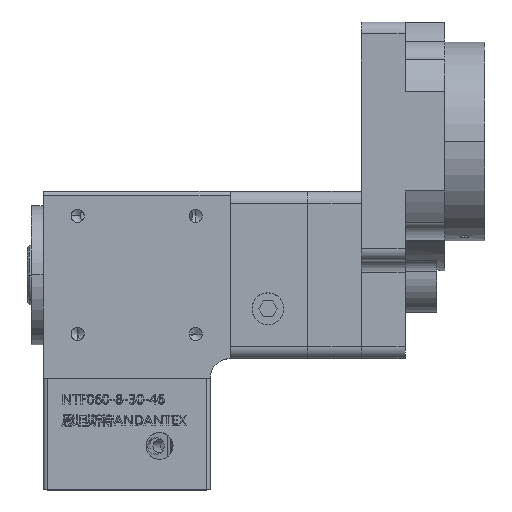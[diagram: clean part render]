
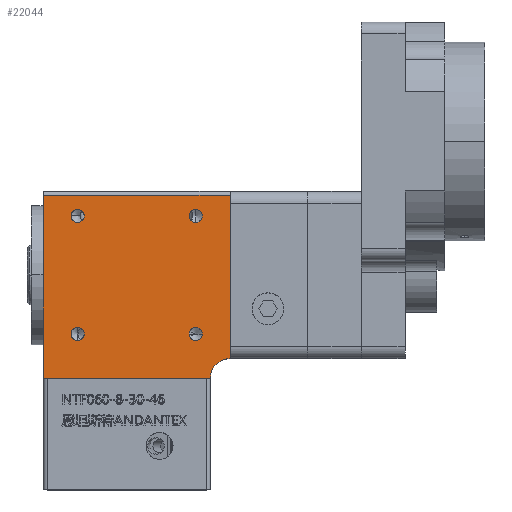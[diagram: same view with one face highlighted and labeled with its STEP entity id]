
A CAD part, top view. The second image highlights one B-rep face of the part: STEP entity #22044.
In plain terms, the highlighted planar face has unit normal (0, 0, 1).
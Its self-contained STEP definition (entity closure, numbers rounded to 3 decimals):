
#474 = ORIENTED_EDGE ( 'NONE', *, *, #62102, .F. ) ;
#797 = CIRCLE ( 'NONE', #16467, 1.65 ) ;
#1523 = DIRECTION ( 'NONE',  ( 0., 0., 1. ) ) ;
#1993 = VERTEX_POINT ( 'NONE', #59797 ) ;
#2158 = DIRECTION ( 'NONE',  ( 1., 0., 0. ) ) ;
#2241 = DIRECTION ( 'NONE',  ( 0., 0., -1. ) ) ;
#2899 = CARTESIAN_POINT ( 'NONE',  ( 53., -23.5, 21. ) ) ;
#3049 = CARTESIAN_POINT ( 'NONE',  ( 3., -23.5, 21. ) ) ;
#3128 = EDGE_LOOP ( 'NONE', ( #25457, #17738 ) ) ;
#3642 = DIRECTION ( 'NONE',  ( 0., 0., 1. ) ) ;
#5184 = CARTESIAN_POINT ( 'NONE',  ( 50., -18.5, 21. ) ) ;
#5505 = AXIS2_PLACEMENT_3D ( 'NONE', #2899, #41578, #12584 ) ;
#6618 = DIRECTION ( 'NONE',  ( 0., 0., 1. ) ) ;
#7053 = AXIS2_PLACEMENT_3D ( 'NONE', #35568, #6618, #40427 ) ;
#7259 = ORIENTED_EDGE ( 'NONE', *, *, #25929, .F. ) ;
#7286 = ORIENTED_EDGE ( 'NONE', *, *, #30018, .F. ) ;
#7350 = DIRECTION ( 'NONE',  ( 1., 0., 0. ) ) ;
#7510 = VERTEX_POINT ( 'NONE', #20174 ) ;
#7842 = VERTEX_POINT ( 'NONE', #12143 ) ;
#9284 = VECTOR ( 'NONE', #22048, 1000. ) ;
#9480 = FACE_OUTER_BOUND ( 'NONE', #45728, .T. ) ;
#9971 = DIRECTION ( 'NONE',  ( 0., -1., 0. ) ) ;
#10055 = CARTESIAN_POINT ( 'NONE',  ( 42.999, -12.349, 21. ) ) ;
#10373 = EDGE_LOOP ( 'NONE', ( #474, #49546 ) ) ;
#10463 = AXIS2_PLACEMENT_3D ( 'NONE', #49436, #20355, #54309 ) ;
#10976 = FACE_BOUND ( 'NONE', #27393, .T. ) ;
#11548 = EDGE_CURVE ( 'NONE', #46346, #59368, #34138, .T. ) ;
#12143 = CARTESIAN_POINT ( 'NONE',  ( 39.699, 17.349, 21. ) ) ;
#12433 = CARTESIAN_POINT ( 'NONE',  ( 41.349, 17.349, 21. ) ) ;
#12584 = DIRECTION ( 'NONE',  ( -1., 0., 0. ) ) ;
#15713 = CIRCLE ( 'NONE', #61662, 1.65 ) ;
#16005 = AXIS2_PLACEMENT_3D ( 'NONE', #12433, #46308, #17266 ) ;
#16467 = AXIS2_PLACEMENT_3D ( 'NONE', #30413, #1523, #35309 ) ;
#16770 = ORIENTED_EDGE ( 'NONE', *, *, #17890, .F. ) ;
#17266 = DIRECTION ( 'NONE',  ( 1., 0., 0. ) ) ;
#17738 = ORIENTED_EDGE ( 'NONE', *, *, #43388, .F. ) ;
#17890 = EDGE_CURVE ( 'NONE', #58060, #61806, #60623, .T. ) ;
#17920 = CIRCLE ( 'NONE', #10463, 1.65 ) ;
#18484 = VECTOR ( 'NONE', #7350, 1000. ) ;
#19329 = CARTESIAN_POINT ( 'NONE',  ( 13.301, -12.349, 21. ) ) ;
#19644 = CARTESIAN_POINT ( 'NONE',  ( 50., 0., 21. ) ) ;
#20174 = CARTESIAN_POINT ( 'NONE',  ( 42.999, 17.349, 21. ) ) ;
#20355 = DIRECTION ( 'NONE',  ( 0., 0., 1. ) ) ;
#20652 = EDGE_CURVE ( 'NONE', #50420, #45015, #55827, .T. ) ;
#21512 = CARTESIAN_POINT ( 'NONE',  ( 3., 22.5, 21. ) ) ;
#22044 = ADVANCED_FACE ( 'NONE', ( #22232, #23774, #48121, #10976, #9480 ), #36704, .F. ) ;
#22048 = DIRECTION ( 'NONE',  ( 0., 1., 0. ) ) ;
#22111 = LINE ( 'NONE', #26162, #56319 ) ;
#22232 = FACE_BOUND ( 'NONE', #10373, .T. ) ;
#22648 = CIRCLE ( 'NONE', #60760, 1.65 ) ;
#23384 = VECTOR ( 'NONE', #9971, 1000. ) ;
#23452 = CARTESIAN_POINT ( 'NONE',  ( 11.651, 17.349, 21. ) ) ;
#23774 = FACE_BOUND ( 'NONE', #61541, .T. ) ;
#24698 = EDGE_CURVE ( 'NONE', #45015, #50420, #797, .T. ) ;
#25057 = DIRECTION ( 'NONE',  ( 0., 0., 1. ) ) ;
#25457 = ORIENTED_EDGE ( 'NONE', *, *, #11548, .F. ) ;
#25916 = ORIENTED_EDGE ( 'NONE', *, *, #41662, .F. ) ;
#25929 = EDGE_CURVE ( 'NONE', #1993, #39680, #15713, .T. ) ;
#26162 = CARTESIAN_POINT ( 'NONE',  ( 53., -23.5, 21. ) ) ;
#26925 = CARTESIAN_POINT ( 'NONE',  ( 3., 0., 21. ) ) ;
#27393 = EDGE_LOOP ( 'NONE', ( #7259, #25916 ) ) ;
#28129 = ORIENTED_EDGE ( 'NONE', *, *, #52273, .F. ) ;
#28350 = DIRECTION ( 'NONE',  ( 1., 0., 0. ) ) ;
#28609 = CARTESIAN_POINT ( 'NONE',  ( 45., -23.5, 21. ) ) ;
#29473 = EDGE_CURVE ( 'NONE', #30559, #44918, #22111, .T. ) ;
#30018 = EDGE_CURVE ( 'NONE', #30559, #41229, #60802, .T. ) ;
#30413 = CARTESIAN_POINT ( 'NONE',  ( 41.349, -12.349, 21. ) ) ;
#30559 = VERTEX_POINT ( 'NONE', #3049 ) ;
#31140 = CARTESIAN_POINT ( 'NONE',  ( 50., -23.5, 21. ) ) ;
#31337 = LINE ( 'NONE', #55424, #18484 ) ;
#31516 = EDGE_CURVE ( 'NONE', #7842, #7510, #54618, .T. ) ;
#32546 = CARTESIAN_POINT ( 'NONE',  ( 41.349, 17.349, 21. ) ) ;
#32659 = AXIS2_PLACEMENT_3D ( 'NONE', #54166, #25057, #59051 ) ;
#33044 = AXIS2_PLACEMENT_3D ( 'NONE', #31140, #2241, #36045 ) ;
#34138 = CIRCLE ( 'NONE', #43475, 1.65 ) ;
#34155 = ORIENTED_EDGE ( 'NONE', *, *, #29473, .T. ) ;
#35309 = DIRECTION ( 'NONE',  ( 1., 0., 0. ) ) ;
#35568 = CARTESIAN_POINT ( 'NONE',  ( 41.349, -12.349, 21. ) ) ;
#36045 = DIRECTION ( 'NONE',  ( 1., 0., 0. ) ) ;
#36704 = PLANE ( 'NONE',  #5505 ) ;
#37430 = DIRECTION ( 'NONE',  ( 1., 0., 0. ) ) ;
#39680 = VERTEX_POINT ( 'NONE', #40186 ) ;
#40186 = CARTESIAN_POINT ( 'NONE',  ( 10.001, 17.349, 21. ) ) ;
#40427 = DIRECTION ( 'NONE',  ( 1., 0., 0. ) ) ;
#40767 = EDGE_CURVE ( 'NONE', #44918, #61806, #45446, .T. ) ;
#41229 = VERTEX_POINT ( 'NONE', #21512 ) ;
#41578 = DIRECTION ( 'NONE',  ( 0., 0., -1. ) ) ;
#41662 = EDGE_CURVE ( 'NONE', #39680, #1993, #47687, .T. ) ;
#42606 = CARTESIAN_POINT ( 'NONE',  ( 39.699, -12.349, 21. ) ) ;
#43388 = EDGE_CURVE ( 'NONE', #59368, #46346, #17920, .T. ) ;
#43475 = AXIS2_PLACEMENT_3D ( 'NONE', #52170, #52089, #51946 ) ;
#44500 = ORIENTED_EDGE ( 'NONE', *, *, #20652, .F. ) ;
#44918 = VERTEX_POINT ( 'NONE', #28609 ) ;
#45015 = VERTEX_POINT ( 'NONE', #10055 ) ;
#45446 = CIRCLE ( 'NONE', #33044, 5. ) ;
#45728 = EDGE_LOOP ( 'NONE', ( #7286, #34155, #49497, #16770, #28129 ) ) ;
#46308 = DIRECTION ( 'NONE',  ( 0., 0., 1. ) ) ;
#46346 = VERTEX_POINT ( 'NONE', #19329 ) ;
#47687 = CIRCLE ( 'NONE', #32659, 1.65 ) ;
#48121 = FACE_BOUND ( 'NONE', #3128, .T. ) ;
#48380 = ORIENTED_EDGE ( 'NONE', *, *, #24698, .F. ) ;
#49436 = CARTESIAN_POINT ( 'NONE',  ( 11.651, -12.349, 21. ) ) ;
#49497 = ORIENTED_EDGE ( 'NONE', *, *, #40767, .T. ) ;
#49546 = ORIENTED_EDGE ( 'NONE', *, *, #31516, .F. ) ;
#50420 = VERTEX_POINT ( 'NONE', #42606 ) ;
#51122 = CARTESIAN_POINT ( 'NONE',  ( 50., 22.5, 21. ) ) ;
#51946 = DIRECTION ( 'NONE',  ( 1., 0., 0. ) ) ;
#52089 = DIRECTION ( 'NONE',  ( 0., 0., 1. ) ) ;
#52170 = CARTESIAN_POINT ( 'NONE',  ( 11.651, -12.349, 21. ) ) ;
#52273 = EDGE_CURVE ( 'NONE', #41229, #58060, #31337, .T. ) ;
#53591 = CARTESIAN_POINT ( 'NONE',  ( 10.001, -12.349, 21. ) ) ;
#54166 = CARTESIAN_POINT ( 'NONE',  ( 11.651, 17.349, 21. ) ) ;
#54309 = DIRECTION ( 'NONE',  ( 1., 0., 0. ) ) ;
#54618 = CIRCLE ( 'NONE', #16005, 1.65 ) ;
#55424 = CARTESIAN_POINT ( 'NONE',  ( 53., 22.5, 21. ) ) ;
#55827 = CIRCLE ( 'NONE', #7053, 1.65 ) ;
#56319 = VECTOR ( 'NONE', #2158, 1000. ) ;
#57487 = DIRECTION ( 'NONE',  ( 0., 0., 1. ) ) ;
#58060 = VERTEX_POINT ( 'NONE', #51122 ) ;
#59051 = DIRECTION ( 'NONE',  ( 1., 0., 0. ) ) ;
#59368 = VERTEX_POINT ( 'NONE', #53591 ) ;
#59797 = CARTESIAN_POINT ( 'NONE',  ( 13.301, 17.349, 21. ) ) ;
#60623 = LINE ( 'NONE', #19644, #23384 ) ;
#60760 = AXIS2_PLACEMENT_3D ( 'NONE', #32546, #3642, #37430 ) ;
#60802 = LINE ( 'NONE', #26925, #9284 ) ;
#61541 = EDGE_LOOP ( 'NONE', ( #48380, #44500 ) ) ;
#61662 = AXIS2_PLACEMENT_3D ( 'NONE', #23452, #57487, #28350 ) ;
#61806 = VERTEX_POINT ( 'NONE', #5184 ) ;
#62102 = EDGE_CURVE ( 'NONE', #7510, #7842, #22648, .T. ) ;
